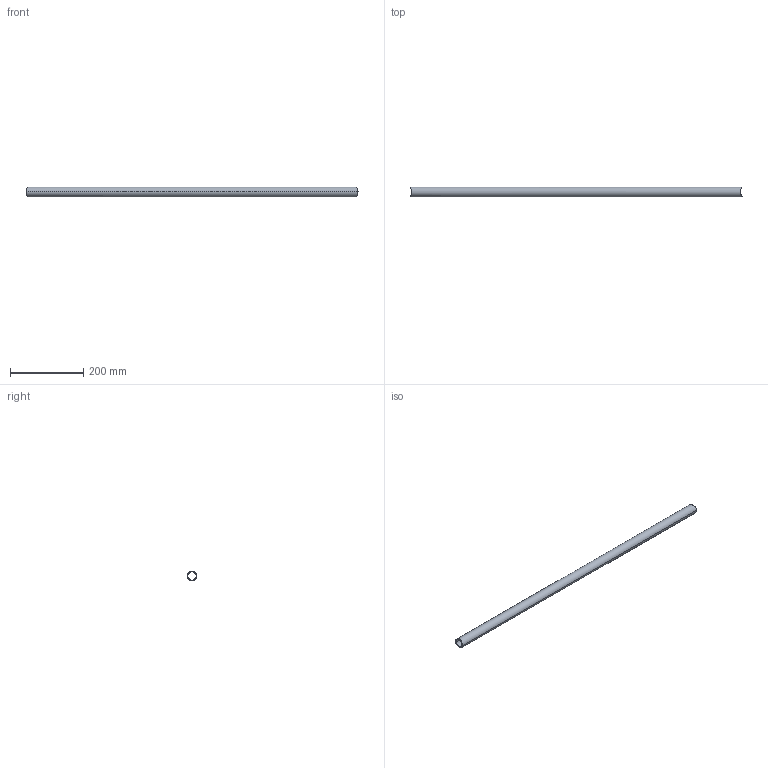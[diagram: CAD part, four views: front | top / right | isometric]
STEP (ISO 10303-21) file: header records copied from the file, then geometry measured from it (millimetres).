
FILE_DESCRIPTION (( 'STEP AP214' ), '1' );
FILE_NAME ('CCJ029-REP.226 - LISSE GARDE CORPS AMOVIBLE A4-A5.STEP', '2024-01-11T14:39:51', ( '' ), ( '' ), 'SwSTEP 2.0', 'SolidWorks 2021', '' );
FILE_SCHEMA (( 'AUTOMOTIVE_DESIGN' ));
Length unit declared in the file: millimetre
Products named in the file (1): CCJ029-REP.226 - LISSE GARDE CORPS AMOVIBLE A4-A5
Bounding box: 904.88 x 26.9 x 26.9 mm (x, y, z)
Volume: 159610.7 mm3; surface area: 139338.6 mm2
Topology: 1 solids, 1 shells, 11 faces, 30 edges, 20 vertices
Faces by surface type: cylinder 11
Entity records: 1037 total; most frequent: CARTESIAN_POINT 749, ORIENTED_EDGE 60, DIRECTION 34, EDGE_CURVE 30, B_SPLINE_CURVE_WITH_KNOTS 20, VERTEX_POINT 20, EDGE_LOOP 16, AXIS2_PLACEMENT_3D 12
